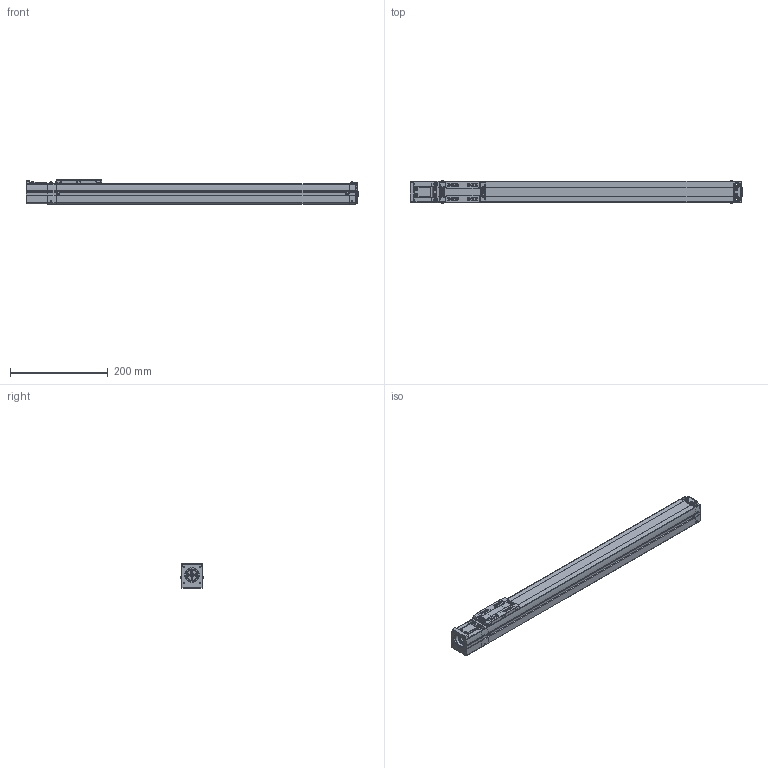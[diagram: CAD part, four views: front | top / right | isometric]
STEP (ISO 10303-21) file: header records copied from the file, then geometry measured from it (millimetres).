
FILE_DESCRIPTION(('STEP AP214'),'1');
FILE_NAME('Z:/Web/3D/SAN45/STP/SAN45ㅁㅁ-500S.stp','2012-06-15T07:30:30',(' '),(' '),'Spatial InterOp 3D',' ',' ');
FILE_SCHEMA(('automotive_design'));
Length unit declared in the file: metre
Products named in the file (63): SAN45__-500; BODY-SAN45; REAR-SAN45; RRCV-SAN45; BHCS M3 x 6L; BHCS M3 X 6L; FRONT-SAN45; SHAFT; RN8 x 0.75; SSFX-SAN45; SLIDE-SAN45; SLCV-IM45; FHCS M3 x 6L; ____91; S; MTHZ-SAN45; SDWB 22C-6-8; SDWB22C(2); SDWB22C(2)_1; SDWB22C(3); SDWB22C(3)_1; SDWB22C(3)_2; SDWB22C(3)_3; SDWB22C(3)_4; SDWB22C(3)_5; SDWB22C(3)_6; SDWB22C(3)_7; SDWB22C(3)_8; SDWB22C(3)_9; SDWB22C(3)_10; SDWB22C(3)_11; SDWB22C(3)_12; SDWB22C(3)_13; SDWB22C(3)_14; SDWB22C(3)_15; SDWB22C(4); SDWB22C(5); SDWB22C(5)_1; SDWB22C(5)_2; SDWB22C(5)_3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
Assembly tree (62 placements, depth 4):
  ____91
    SAN45__-500
      BODY-SAN45
      REAR-SAN45
        REAR-SAN45
        RRCV-SAN45
        BHCS M3 x 6L
        BHCS M3 X 6L
        BHCS M3 x 6L
        BHCS M3 x 6L
        BHCS M3 x 6L
        BHCS M3 x 6L
      FRONT-SAN45
        FRONT-SAN45
        SHAFT
        RN8 x 0.75
        SSFX-SAN45
        BHCS M3 x 6L
        BHCS M3 x 6L
        BHCS M3 x 6L
        BHCS M3 x 6L
      SLIDE-SAN45
        SLIDE-SAN45
        SLCV-IM45
        FHCS M3 x 6L
        FHCS M3 x 6L
        FHCS M3 x 6L
        FHCS M3 x 6L
    S
      MTHZ-SAN45
      SDWB 22C-6-8
        SDWB22C(2)
        SDWB22C(2)_1
        SDWB22C(3)
        SDWB22C(3)_1
        SDWB22C(3)_2
        SDWB22C(3)_3
        SDWB22C(3)_4
        SDWB22C(3)_5
        SDWB22C(3)_6
        SDWB22C(3)_7
        SDWB22C(3)_8
        SDWB22C(3)_9
        SDWB22C(3)_10
        SDWB22C(3)_11
        SDWB22C(3)_12
        SDWB22C(3)_13
        SDWB22C(3)_14
        SDWB22C(3)_15
        SDWB22C(4)
        SDWB22C(5)
        SDWB22C(5)_1
        SDWB22C(5)_2
        SDWB22C(5)_3
        SDWB22C(5)_4
        SDWB22C(5)_5
        SDWB22C(5)_6
        SDWB22C(5)_7
        SDWA22C(1)
        SDWA22C(1)
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Bounding box: 680.15 x 47.13 x 50 mm (x, y, z)
Volume: 1234865.8 mm3; surface area: 192114.7 mm2
Topology: 56 solids, 56 shells, 1823 faces, 4675 edges, 3037 vertices
Faces by surface type: plane 1031, cylinder 561, cone 151, bspline 42, sphere 24, torus 11, extrusion 3
Full cylindrical faces by diameter (mm): 0.376 x2, 0.47 x1, 1.137 x2, 1.421 x1, 1.665 x4, 2.081 x2, 2.2 x4, 2.5 x39, 2.6 x14, 2.7 x2, 3 x10, 3.193 x4, 3.3 x8, 3.4 x4, 3.5 x8, 3.991 x2, 4.2 x14, 4.5 x28, 4.9 x2, 5 x13, 6 x9, 7 x1, 8 x9, 9 x1, 10.7 x2, 13 x1, 15 x1, 19 x1, 22.2 x3, 25 x1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
Entity records: 73052 total; most frequent: CARTESIAN_POINT 13930, DIRECTION 9150, ORIENTED_EDGE 8396, EDGE_CURVE 4198, AXIS2_PLACEMENT_3D 3259, VERTEX_POINT 2917, VECTOR 2632, LINE 2629
